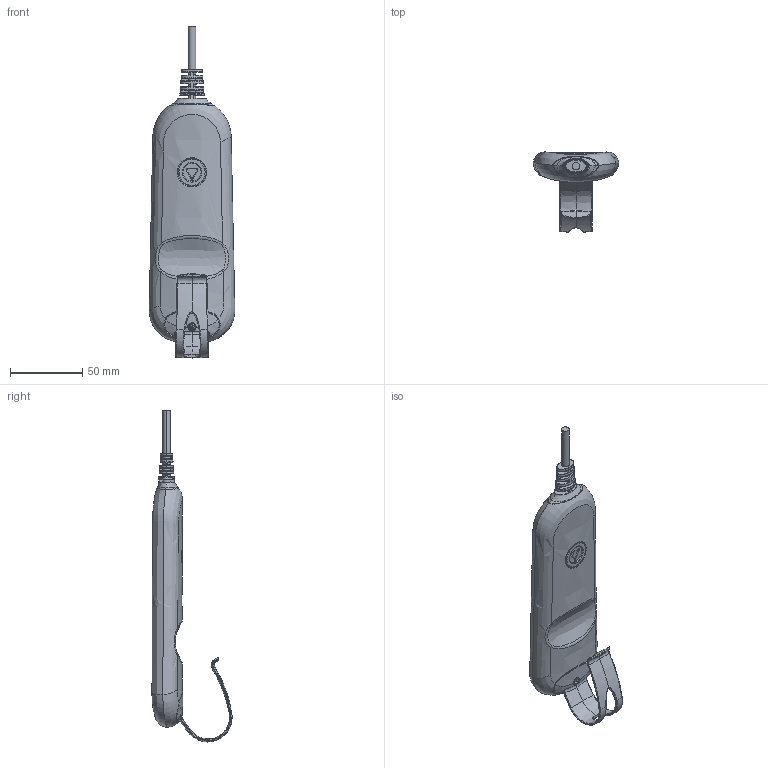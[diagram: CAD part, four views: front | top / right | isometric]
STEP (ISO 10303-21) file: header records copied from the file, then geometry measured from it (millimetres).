
FILE_DESCRIPTION (( 'STEP AP203' ), '1' );
FILE_NAME ('3D_TMH15.STEP', '2019-03-14T08:51:50', ( '' ), ( '' ), 'SwSTEP 2.0', 'SolidWorks 2015', '' );
FILE_SCHEMA (( 'CONFIG_CONTROL_DESIGN' ));
Length unit declared in the file: millimetre
Products named in the file (1): 3D_TMH15
Bounding box: 59.07 x 55.29 x 229 mm (x, y, z)
Volume: 153405.3 mm3; surface area: 59437.6 mm2
Topology: 13 solids, 13 shells, 774 faces, 1910 edges, 1178 vertices
Faces by surface type: bspline 471, plane 121, cylinder 104, cone 41, torus 36, sphere 1
Full cylindrical faces by diameter (mm): 2.2 x1
Entity records: 59821 total; most frequent: CARTESIAN_POINT 45076, ORIENTED_EDGE 3810, DIRECTION 1930, EDGE_CURVE 1905, VERTEX_POINT 1177, B_SPLINE_CURVE_WITH_KNOTS 1039, EDGE_LOOP 796, AXIS2_PLACEMENT_3D 778
